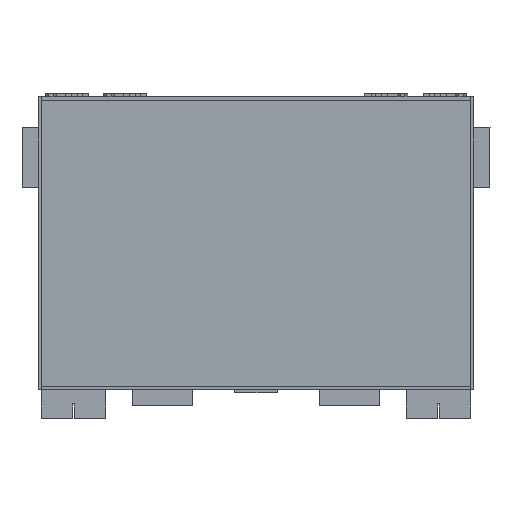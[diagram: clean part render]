
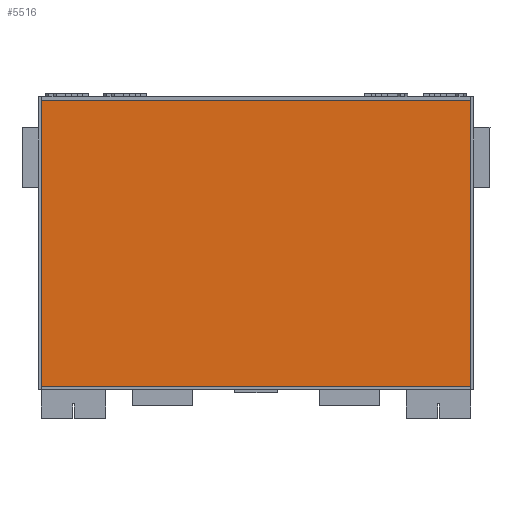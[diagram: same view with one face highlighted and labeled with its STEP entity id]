
A CAD part, front view. The second image highlights one B-rep face of the part: STEP entity #5516.
In plain terms, the highlighted planar face has unit normal (0, -1, 0).
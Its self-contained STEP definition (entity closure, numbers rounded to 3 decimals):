
#939=FACE_OUTER_BOUND('',#1255,.T.);
#1255=EDGE_LOOP('',(#3922,#3923,#3924,#3925));
#1623=LINE('',#8613,#2170);
#1627=LINE('',#8621,#2174);
#1630=LINE('',#8627,#2177);
#1633=LINE('',#8632,#2180);
#2170=VECTOR('',#6878,10.);
#2174=VECTOR('',#6884,10.);
#2177=VECTOR('',#6889,10.);
#2180=VECTOR('',#6894,10.);
#2709=VERTEX_POINT('',#8611);
#2710=VERTEX_POINT('',#8612);
#2713=VERTEX_POINT('',#8620);
#2715=VERTEX_POINT('',#8626);
#3178=EDGE_CURVE('',#2709,#2710,#1623,.T.);
#3182=EDGE_CURVE('',#2710,#2713,#1627,.T.);
#3185=EDGE_CURVE('',#2713,#2715,#1630,.T.);
#3188=EDGE_CURVE('',#2715,#2709,#1633,.T.);
#3922=ORIENTED_EDGE('',*,*,#3188,.T.);
#3923=ORIENTED_EDGE('',*,*,#3178,.T.);
#3924=ORIENTED_EDGE('',*,*,#3182,.T.);
#3925=ORIENTED_EDGE('',*,*,#3185,.T.);
#5271=PLANE('',#6243);
#5516=ADVANCED_FACE('',(#939),#5271,.F.);
#6243=AXIS2_PLACEMENT_3D('',#8635,#6898,#6899);
#6878=DIRECTION('',(0.,0.,-1.));
#6884=DIRECTION('',(1.,0.,0.));
#6889=DIRECTION('',(0.,0.,1.));
#6894=DIRECTION('',(-1.,0.,0.));
#6898=DIRECTION('center_axis',(0.,1.,0.));
#6899=DIRECTION('ref_axis',(1.,0.,0.));
#8611=CARTESIAN_POINT('',(0.,0.,2000.));
#8612=CARTESIAN_POINT('',(0.,0.,0.));
#8613=CARTESIAN_POINT('',(0.,0.,2000.));
#8620=CARTESIAN_POINT('',(3000.,0.,0.));
#8621=CARTESIAN_POINT('',(0.,0.,0.));
#8626=CARTESIAN_POINT('',(3000.,0.,2000.));
#8627=CARTESIAN_POINT('',(3000.,0.,0.));
#8632=CARTESIAN_POINT('',(3000.,0.,2000.));
#8635=CARTESIAN_POINT('Origin',(1500.,0.,1000.));
